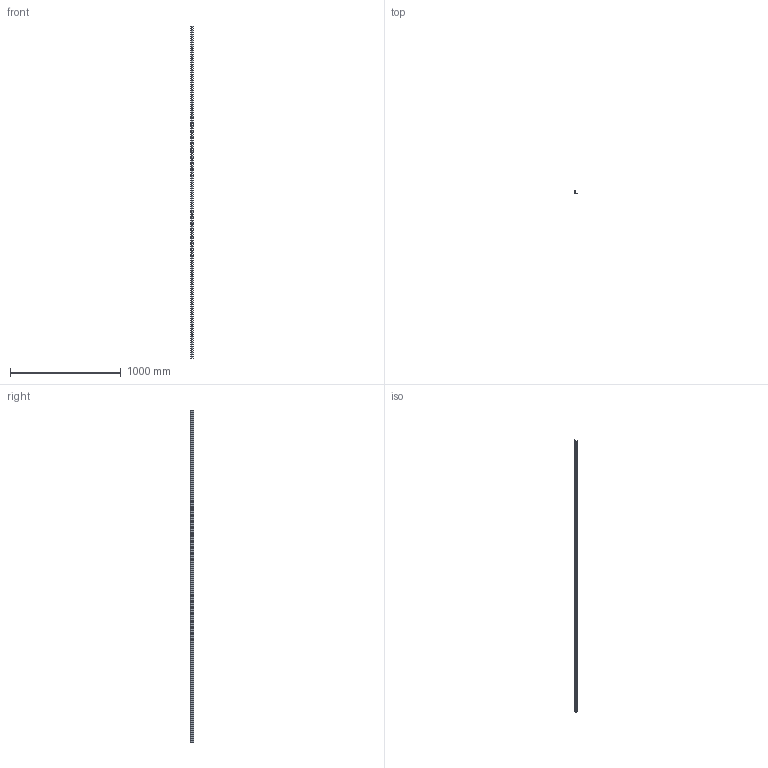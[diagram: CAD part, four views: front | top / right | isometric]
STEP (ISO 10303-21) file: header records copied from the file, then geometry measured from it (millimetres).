
FILE_DESCRIPTION (( 'STEP AP203' ), '1' );
FILE_NAME ('Perfil separador PS_CLIC 35.step', '2023-07-28T14:28:50', ( '' ), ( '' ), 'SwSTEP 2.0', 'SolidWorks 2022', '' );
FILE_SCHEMA (( 'CONFIG_CONTROL_DESIGN' ));
Length unit declared in the file: millimetre
Products named in the file (1): Perfil separador PS_CLIC 35
Bounding box: 20 x 29.5 x 3000 mm (x, y, z)
Volume: 103489.2 mm3; surface area: 303040.4 mm2
Topology: 1 solids, 1 shells, 484 faces, 1382 edges, 900 vertices
Faces by surface type: plane 258, cylinder 226
Entity records: 16147 total; most frequent: DIRECTION 2804, CARTESIAN_POINT 2767, ORIENTED_EDGE 2764, EDGE_CURVE 1382, AXIS2_PLACEMENT_3D 937, VECTOR 930, LINE 930, VERTEX_POINT 900
